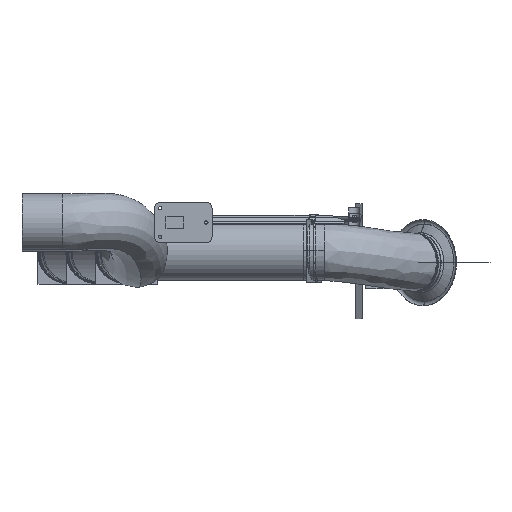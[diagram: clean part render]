
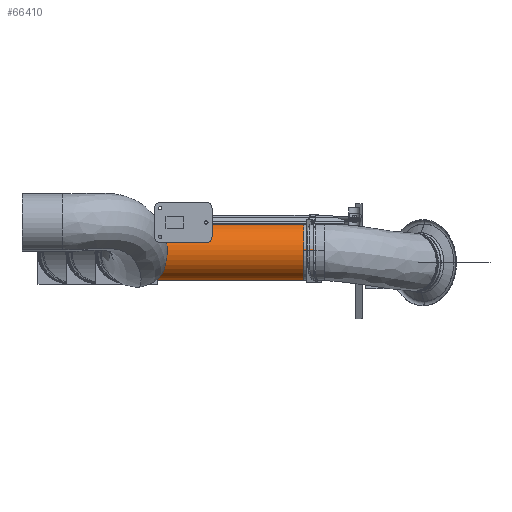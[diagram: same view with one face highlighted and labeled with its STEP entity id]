
A CAD part, left-side view. The second image highlights one B-rep face of the part: STEP entity #66410.
In plain terms, the highlighted free-form (B-spline) face has degree [3, 3] with [7, 6] control points.
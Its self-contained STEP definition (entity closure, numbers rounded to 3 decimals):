
#65526=CARTESIAN_POINT('',(1152.215,-562.358,-97.));
#65527=DIRECTION('',(0.,1.,0.));
#65528=DIRECTION('',(-0.051,0.,-0.999));
#65529=AXIS2_PLACEMENT_3D('',#65526,#65527,#65528);
#65534=CARTESIAN_POINT('',(1147.068,-562.358,
-196.867));
#65535=CARTESIAN_POINT('',(1147.068,-485.691,
-196.867));
#65536=CARTESIAN_POINT('',(1147.068,-332.358,
-196.867));
#65537=CARTESIAN_POINT('',(1147.068,-102.358,
-196.867));
#65538=CARTESIAN_POINT('',(1147.068,50.975,
-196.867));
#65539=CARTESIAN_POINT('',(1147.068,127.642,
-196.867));
#65552=CARTESIAN_POINT('',(1157.361,-562.358,
2.867));
#65553=CARTESIAN_POINT('',(1157.361,-485.691,
2.867));
#65554=CARTESIAN_POINT('',(1157.361,-332.358,
2.867));
#65555=CARTESIAN_POINT('',(1157.361,-102.358,
2.867));
#65556=CARTESIAN_POINT('',(1157.361,50.975,2.867));
#65557=CARTESIAN_POINT('',(1157.361,127.642,2.867));
#65630=CARTESIAN_POINT('',(1152.215,127.642,-97.));
#65631=DIRECTION('',(0.,1.,0.));
#65632=DIRECTION('',(-0.051,0.,-0.999));
#65633=AXIS2_PLACEMENT_3D('',#65630,#65631,#65632);
#66043=CARTESIAN_POINT('',(1157.361,-562.358,
2.867));
#66044=CARTESIAN_POINT('',(1147.068,-562.358,
-196.867));
#66045=VERTEX_POINT('',#66043);
#66046=VERTEX_POINT('',#66044);
#66047=CARTESIAN_POINT('',(1157.361,127.642,2.867));
#66048=CARTESIAN_POINT('',(1147.068,127.642,
-196.867));
#66049=VERTEX_POINT('',#66047);
#66050=VERTEX_POINT('',#66048);
#66358=CARTESIAN_POINT('',(1153.349,-576.158,
-196.994));
#66359=CARTESIAN_POINT('',(1153.349,-571.558,
-196.994));
#66360=CARTESIAN_POINT('',(1153.349,-336.958,
-196.994));
#66361=CARTESIAN_POINT('',(1153.349,-97.758,
-196.994));
#66362=CARTESIAN_POINT('',(1153.349,136.842,
-196.994));
#66363=CARTESIAN_POINT('',(1153.349,141.442,
-196.994));
#66364=CARTESIAN_POINT('',(1091.813,-576.158,
-197.692));
#66365=CARTESIAN_POINT('',(1091.813,-571.558,
-197.692));
#66366=CARTESIAN_POINT('',(1091.813,-336.958,
-197.692));
#66367=CARTESIAN_POINT('',(1091.813,-97.758,
-197.692));
#66368=CARTESIAN_POINT('',(1091.813,136.842,
-197.692));
#66369=CARTESIAN_POINT('',(1091.813,141.442,
-197.692));
#66370=CARTESIAN_POINT('',(1049.18,-576.158,
-153.312));
#66371=CARTESIAN_POINT('',(1049.18,-571.558,
-153.312));
#66372=CARTESIAN_POINT('',(1049.18,-336.958,
-153.312));
#66373=CARTESIAN_POINT('',(1049.18,-97.758,
-153.312));
#66374=CARTESIAN_POINT('',(1049.18,136.842,
-153.312));
#66375=CARTESIAN_POINT('',(1049.18,141.442,
-153.312));
#66376=CARTESIAN_POINT('',(1052.347,-576.158,
-91.854));
#66377=CARTESIAN_POINT('',(1052.347,-571.558,
-91.854));
#66378=CARTESIAN_POINT('',(1052.347,-336.958,
-91.854));
#66379=CARTESIAN_POINT('',(1052.347,-97.758,
-91.854));
#66380=CARTESIAN_POINT('',(1052.347,136.842,
-91.854));
#66381=CARTESIAN_POINT('',(1052.347,141.442,
-91.854));
#66382=CARTESIAN_POINT('',(1055.514,-576.158,
-30.395));
#66383=CARTESIAN_POINT('',(1055.514,-571.558,
-30.395));
#66384=CARTESIAN_POINT('',(1055.514,-336.958,
-30.395));
#66385=CARTESIAN_POINT('',(1055.514,-97.758,
-30.395));
#66386=CARTESIAN_POINT('',(1055.514,136.842,
-30.395));
#66387=CARTESIAN_POINT('',(1055.514,141.442,
-30.395));
#66388=CARTESIAN_POINT('',(1102.483,-576.158,
9.367));
#66389=CARTESIAN_POINT('',(1102.483,-571.558,
9.367));
#66390=CARTESIAN_POINT('',(1102.483,-336.958,
9.367));
#66391=CARTESIAN_POINT('',(1102.483,-97.758,
9.367));
#66392=CARTESIAN_POINT('',(1102.483,136.842,9.367));
#66393=CARTESIAN_POINT('',(1102.483,141.442,9.367));
#66394=CARTESIAN_POINT('',(1163.622,-576.158,
2.347));
#66395=CARTESIAN_POINT('',(1163.622,-571.558,
2.347));
#66396=CARTESIAN_POINT('',(1163.622,-336.958,
2.347));
#66397=CARTESIAN_POINT('',(1163.622,-97.758,
2.347));
#66398=CARTESIAN_POINT('',(1163.622,136.842,2.347));
#66399=CARTESIAN_POINT('',(1163.622,141.442,2.347));
#66400=(BOUNDED_SURFACE()B_SPLINE_SURFACE(3,3,((#66358,#66359,#66360,#66361,
#66362,#66363),(#66364,#66365,#66366,#66367,#66368,#66369),(#66370,#66371,
#66372,#66373,#66374,#66375),(#66376,#66377,#66378,#66379,#66380,#66381),
(#66382,#66383,#66384,#66385,#66386,#66387),(#66388,#66389,#66390,#66391,#66392,
#66393),(#66394,#66395,#66396,#66397,#66398,#66399)),.UNSPECIFIED.,.F.,.F.,.F.)B_SPLINE_SURFACE_WITH_KNOTS((4,3,4),(4,1,1,4),(0.,1.,2.),(-0.02,0.,1.,
1.02),.UNSPECIFIED.)GEOMETRIC_REPRESENTATION_ITEM()RATIONAL_B_SPLINE_SURFACE((
(1.187,1.187,1.187,1.187,
1.187,1.187),(0.938,0.938,
0.938,0.938,0.938,0.938),(
0.938,0.938,0.938,0.938,
0.938,0.938),(1.187,1.187,
1.187,1.187,1.187,1.187),(
0.938,0.938,0.938,0.938,
0.938,0.938),(0.938,0.938,
0.938,0.938,0.938,0.938),(
1.187,1.187,1.187,1.187,
1.187,1.187)))REPRESENTATION_ITEM('')SURFACE());
#66401=ORIENTED_EDGE('',*,*,#66345,.F.);
#66403=ORIENTED_EDGE('',*,*,#66402,.T.);
#66405=ORIENTED_EDGE('',*,*,#66404,.T.);
#66407=ORIENTED_EDGE('',*,*,#66406,.F.);
#66408=EDGE_LOOP('',(#66401,#66403,#66405,#66407));
#66409=FACE_OUTER_BOUND('',#66408,.F.);
#65530=CIRCLE('',#65529,100.);
#65540=B_SPLINE_CURVE_WITH_KNOTS('',3,(#65534,#65535,#65536,#65537,#65538,
#65539),.UNSPECIFIED.,.F.,.F.,(4,1,1,4),(0.,0.333,
0.667,1.),.UNSPECIFIED.);
#65558=B_SPLINE_CURVE_WITH_KNOTS('',3,(#65552,#65553,#65554,#65555,#65556,
#65557),.UNSPECIFIED.,.F.,.F.,(4,1,1,4),(0.,0.333,
0.667,1.),.UNSPECIFIED.);
#65634=CIRCLE('',#65633,100.);
#66345=EDGE_CURVE('',#66046,#66045,#65530,.T.);
#66402=EDGE_CURVE('',#66046,#66050,#65540,.T.);
#66404=EDGE_CURVE('',#66050,#66049,#65634,.T.);
#66406=EDGE_CURVE('',#66045,#66049,#65558,.T.);
#66410=ADVANCED_FACE('',(#66409),#66400,.T.);
